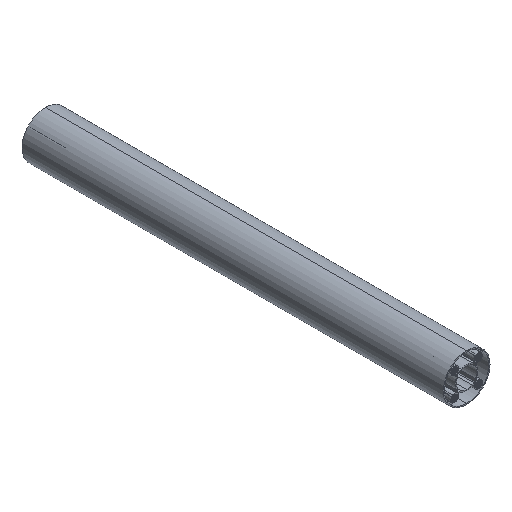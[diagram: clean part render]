
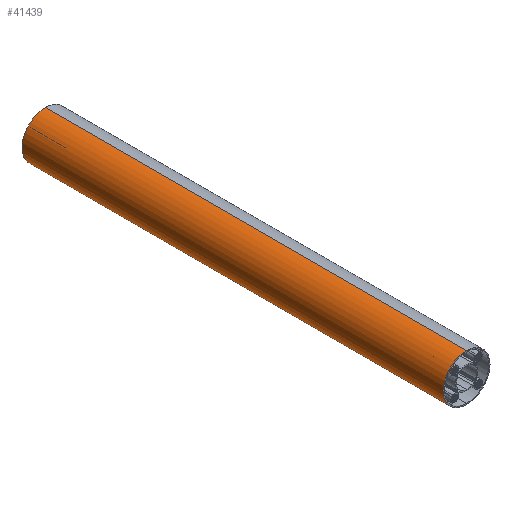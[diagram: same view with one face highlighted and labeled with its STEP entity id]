
A CAD part, isometric view. The second image highlights one B-rep face of the part: STEP entity #41439.
In plain terms, the highlighted cylindrical face has radius 15.975 mm (diameter 31.95 mm), a partial arc.
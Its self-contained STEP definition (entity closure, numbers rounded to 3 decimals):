
#432 = EDGE_CURVE ( 'NONE', #25612, #19609, #31740, .T. ) ;
#1548 = ORIENTED_EDGE ( 'NONE', *, *, #15088, .F. ) ;
#2748 = DIRECTION ( 'NONE',  ( 0., -1., 0. ) ) ;
#4700 = DIRECTION ( 'NONE',  ( 0., 1., 0. ) ) ;
#6394 = CARTESIAN_POINT ( 'NONE',  ( 0., 288., -15.975 ) ) ;
#6760 = VERTEX_POINT ( 'NONE', #31089 ) ;
#8061 = DIRECTION ( 'NONE',  ( 0., 0., 1. ) ) ;
#12429 = EDGE_CURVE ( 'NONE', #6760, #19609, #14343, .T. ) ;
#14343 = LINE ( 'NONE', #27386, #45827 ) ;
#15088 = EDGE_CURVE ( 'NONE', #27155, #6760, #27773, .T. ) ;
#16071 = ORIENTED_EDGE ( 'NONE', *, *, #432, .T. ) ;
#19609 = VERTEX_POINT ( 'NONE', #35278 ) ;
#22301 = ORIENTED_EDGE ( 'NONE', *, *, #12429, .F. ) ;
#24279 = DIRECTION ( 'NONE',  ( 0., 1., 0. ) ) ;
#25612 = VERTEX_POINT ( 'NONE', #40666 ) ;
#26206 = CARTESIAN_POINT ( 'NONE',  ( 0., 288., 0. ) ) ;
#26702 = DIRECTION ( 'NONE',  ( 0., 0., -1. ) ) ;
#27155 = VERTEX_POINT ( 'NONE', #45871 ) ;
#27386 = CARTESIAN_POINT ( 'NONE',  ( 0., 288., 15.975 ) ) ;
#27717 = CARTESIAN_POINT ( 'NONE',  ( 0., 0., 0. ) ) ;
#27773 = CIRCLE ( 'NONE', #51057, 15.975 ) ;
#27961 = VECTOR ( 'NONE', #2748, 1000. ) ;
#28625 = DIRECTION ( 'NONE',  ( 0., -1., 0. ) ) ;
#29246 = LINE ( 'NONE', #6394, #27961 ) ;
#29950 = FACE_OUTER_BOUND ( 'NONE', #47888, .T. ) ;
#31089 = CARTESIAN_POINT ( 'NONE',  ( 0., 288., 15.975 ) ) ;
#31740 = CIRCLE ( 'NONE', #40499, 15.975 ) ;
#35278 = CARTESIAN_POINT ( 'NONE',  ( 0., 0., 15.975 ) ) ;
#39533 = AXIS2_PLACEMENT_3D ( 'NONE', #26206, #42482, #26702 ) ;
#39813 = CARTESIAN_POINT ( 'NONE',  ( 0., 288., 0. ) ) ;
#40499 = AXIS2_PLACEMENT_3D ( 'NONE', #27717, #24279, #8061 ) ;
#40666 = CARTESIAN_POINT ( 'NONE',  ( 0., 0., -15.975 ) ) ;
#41439 = ADVANCED_FACE ( 'NONE', ( #29950 ), #41704, .T. ) ;
#41704 = CYLINDRICAL_SURFACE ( 'NONE', #39533, 15.975 ) ;
#42482 = DIRECTION ( 'NONE',  ( 0., -1., 0. ) ) ;
#44513 = EDGE_CURVE ( 'NONE', #27155, #25612, #29246, .T. ) ;
#45827 = VECTOR ( 'NONE', #28625, 1000. ) ;
#45871 = CARTESIAN_POINT ( 'NONE',  ( 0., 288., -15.975 ) ) ;
#46609 = ORIENTED_EDGE ( 'NONE', *, *, #44513, .T. ) ;
#47888 = EDGE_LOOP ( 'NONE', ( #22301, #1548, #46609, #16071 ) ) ;
#48266 = DIRECTION ( 'NONE',  ( 0., 0., 1. ) ) ;
#51057 = AXIS2_PLACEMENT_3D ( 'NONE', #39813, #4700, #48266 ) ;
